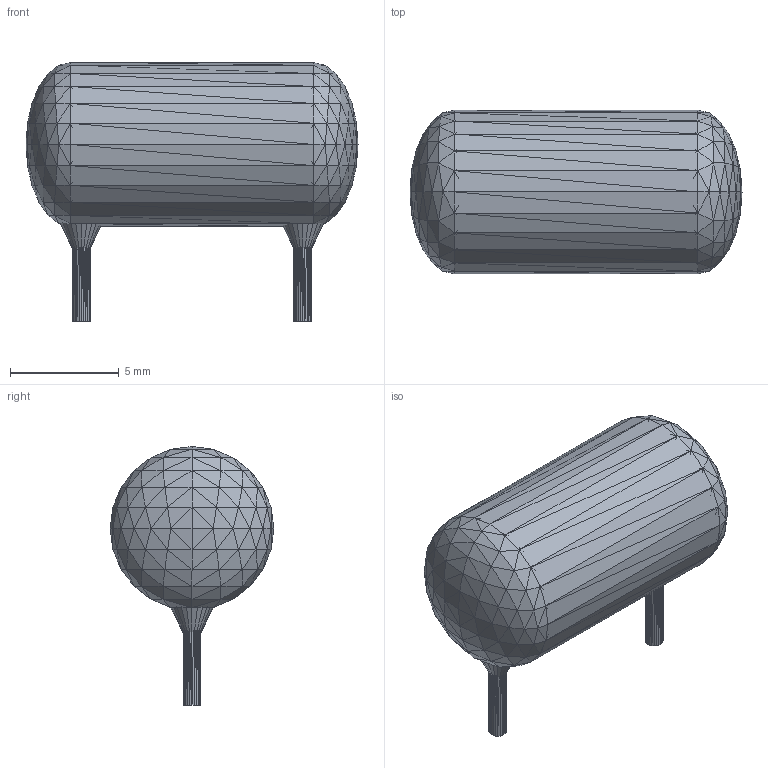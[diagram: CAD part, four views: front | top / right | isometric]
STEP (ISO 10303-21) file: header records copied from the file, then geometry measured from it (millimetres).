
FILE_DESCRIPTION(('HOOPS Exchange Step'),'2;1');
FILE_NAME('***.stp');
FILE_SCHEMA( ('AP242_MANAGED_MODEL_BASED_3D_ENGINEERING_MIM_LF {1 0 10303 442 1 1 4 }') );
Length unit declared in the file: inch
Products named in the file (8): CAPORGSMNF_2; CAPORGSMNF_3; CAPORGSMNF_4; CAPORGSMNF_5; CAPORGSMNF_6; CAPORGSMNF_7; CAPORGSMNF_8; CAPORGSMNF
Assembly tree (7 placements, depth 2):
  CAPORGSMNF
    CAPORGSMNF_2
    CAPORGSMNF_3
    CAPORGSMNF_4
    CAPORGSMNF_5
    CAPORGSMNF_6
    CAPORGSMNF_7
    CAPORGSMNF_8
Bounding box: 15.24 x 7.52 x 11.89 mm (x, y, z)
Surface area: 1294.8 mm2 (no closed solid volume)
Topology: 0 solids, 1920 shells, 1920 faces, 1440 edges, 494 vertices
Faces by surface type: plane 1920
Entity records: 29644 total; most frequent: ORIENTED_EDGE 5760, DIRECTION 5312, CARTESIAN_POINT 3870, AXIS2_PLACEMENT_3D 1936, PLANE 1920, EDGE_LOOP 1920, FACE_BOUND 1920, ADVANCED_FACE 1920
